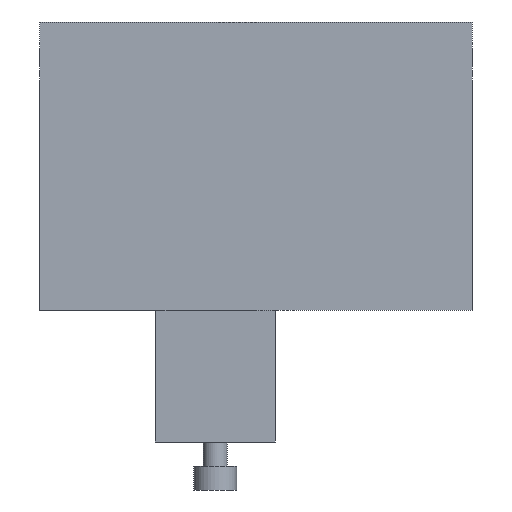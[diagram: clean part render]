
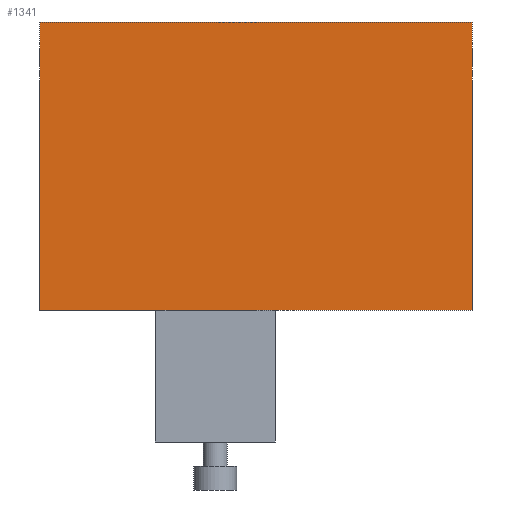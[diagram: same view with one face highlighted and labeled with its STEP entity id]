
A CAD part, front view. The second image highlights one B-rep face of the part: STEP entity #1341.
In plain terms, the highlighted planar face has unit normal (0, -1, 0).
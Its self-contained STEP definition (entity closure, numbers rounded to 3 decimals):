
#32 = CARTESIAN_POINT ( 'NONE',  ( -90., 0., 60. ) ) ;
#137 = LINE ( 'NONE', #2119, #1132 ) ;
#189 = LINE ( 'NONE', #32, #1449 ) ;
#204 = PLANE ( 'NONE',  #2171 ) ;
#269 = LINE ( 'NONE', #1589, #401 ) ;
#306 = VECTOR ( 'NONE', #584, 1000. ) ;
#338 = ORIENTED_EDGE ( 'NONE', *, *, #418, .F. ) ;
#353 = ORIENTED_EDGE ( 'NONE', *, *, #1461, .F. ) ;
#401 = VECTOR ( 'NONE', #1372, 1000. ) ;
#418 = EDGE_CURVE ( 'NONE', #1091, #663, #269, .T. ) ;
#425 = EDGE_LOOP ( 'NONE', ( #834, #353, #338, #1404 ) ) ;
#584 = DIRECTION ( 'NONE',  ( 1., 0., 0. ) ) ;
#642 = CARTESIAN_POINT ( 'NONE',  ( -90., 0., -60. ) ) ;
#645 = EDGE_CURVE ( 'NONE', #1137, #1904, #189, .T. ) ;
#663 = VERTEX_POINT ( 'NONE', #1748 ) ;
#822 = CARTESIAN_POINT ( 'NONE',  ( -90., 0., 60. ) ) ;
#834 = ORIENTED_EDGE ( 'NONE', *, *, #645, .F. ) ;
#1031 = CARTESIAN_POINT ( 'NONE',  ( 90., 0., 60. ) ) ;
#1049 = LINE ( 'NONE', #822, #306 ) ;
#1091 = VERTEX_POINT ( 'NONE', #1031 ) ;
#1132 = VECTOR ( 'NONE', #1903, 1000. ) ;
#1137 = VERTEX_POINT ( 'NONE', #642 ) ;
#1341 = ADVANCED_FACE ( 'NONE', ( #2059 ), #204, .T. ) ;
#1348 = EDGE_CURVE ( 'NONE', #1904, #1091, #1049, .T. ) ;
#1372 = DIRECTION ( 'NONE',  ( 0., 0., -1. ) ) ;
#1404 = ORIENTED_EDGE ( 'NONE', *, *, #1348, .F. ) ;
#1445 = CARTESIAN_POINT ( 'NONE',  ( -90., 0., 60. ) ) ;
#1449 = VECTOR ( 'NONE', #2031, 1000. ) ;
#1461 = EDGE_CURVE ( 'NONE', #663, #1137, #137, .T. ) ;
#1589 = CARTESIAN_POINT ( 'NONE',  ( 90., 0., 60. ) ) ;
#1736 = DIRECTION ( 'NONE',  ( 0., 0., -1. ) ) ;
#1748 = CARTESIAN_POINT ( 'NONE',  ( 90., 0., -60. ) ) ;
#1903 = DIRECTION ( 'NONE',  ( -1., 0., 0. ) ) ;
#1904 = VERTEX_POINT ( 'NONE', #1445 ) ;
#1957 = DIRECTION ( 'NONE',  ( 0., -1., 0. ) ) ;
#2031 = DIRECTION ( 'NONE',  ( 0., 0., 1. ) ) ;
#2059 = FACE_OUTER_BOUND ( 'NONE', #425, .T. ) ;
#2119 = CARTESIAN_POINT ( 'NONE',  ( -90., 0., -60. ) ) ;
#2171 = AXIS2_PLACEMENT_3D ( 'NONE', #2187, #1957, #1736 ) ;
#2187 = CARTESIAN_POINT ( 'NONE',  ( -90., 0., -60. ) ) ;
